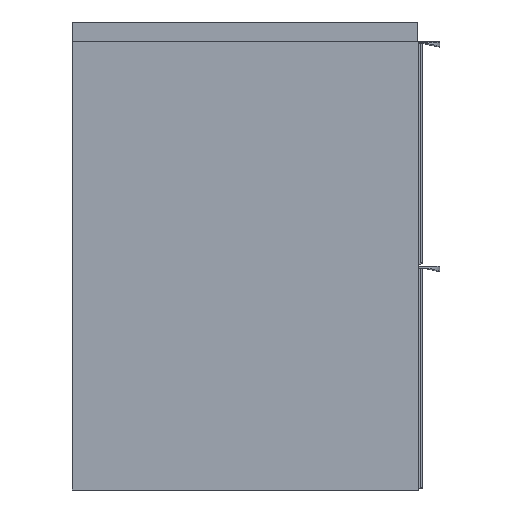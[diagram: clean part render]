
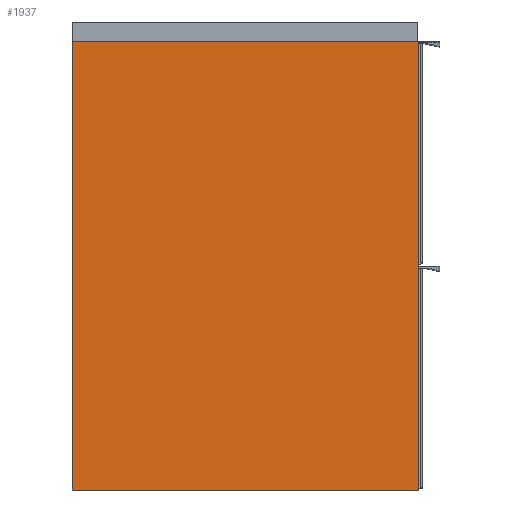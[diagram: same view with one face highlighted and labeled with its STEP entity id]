
A CAD part, left-side view. The second image highlights one B-rep face of the part: STEP entity #1937.
In plain terms, the highlighted planar face has unit normal (-1, 0, 0).
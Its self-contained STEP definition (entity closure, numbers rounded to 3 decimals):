
#1937=ADVANCED_FACE('',(#3280),#23209,.T.);
#3280=FACE_OUTER_BOUND('',#4623,.T.);
#4623=EDGE_LOOP('',(#6163,#6164,#6165,#6166));
#6163=ORIENTED_EDGE('',*,*,#13791,.F.);
#6164=ORIENTED_EDGE('',*,*,#13795,.F.);
#6165=ORIENTED_EDGE('',*,*,#13798,.F.);
#6166=ORIENTED_EDGE('',*,*,#13800,.F.);
#13791=EDGE_CURVE('',#20608,#20609,#17614,.T.);
#13795=EDGE_CURVE('',#20611,#20608,#17618,.T.);
#13798=EDGE_CURVE('',#20613,#20611,#17621,.T.);
#13800=EDGE_CURVE('',#20609,#20613,#17623,.T.);
#17614=B_SPLINE_CURVE_WITH_KNOTS('',1,(#26945,#26946),.UNSPECIFIED.,.F.,
 .F.,(2,2),(-500.,0.),.UNSPECIFIED.);
#17618=B_SPLINE_CURVE_WITH_KNOTS('',1,(#26953,#26954),.UNSPECIFIED.,.F.,
 .F.,(2,2),(-386.,0.),.UNSPECIFIED.);
#17621=B_SPLINE_CURVE_WITH_KNOTS('',1,(#26959,#26960),.UNSPECIFIED.,.F.,
 .F.,(2,2),(-500.,0.),.UNSPECIFIED.);
#17623=B_SPLINE_CURVE_WITH_KNOTS('',1,(#26963,#26964),.UNSPECIFIED.,.F.,
 .F.,(2,2),(-386.,0.),.UNSPECIFIED.);
#20608=VERTEX_POINT('',#26935);
#20609=VERTEX_POINT('',#26936);
#20611=VERTEX_POINT('',#26938);
#20613=VERTEX_POINT('',#26940);
#23209=PLANE('',#24773);
#24773=AXIS2_PLACEMENT_3D('',#26932,#25809,$);
#25809=DIRECTION('',(-1.,0.,0.));
#26932=CARTESIAN_POINT('',(8396.723,-5774.058,-40.828));
#26935=CARTESIAN_POINT('',(8396.723,-5735.338,-90.948));
#26936=CARTESIAN_POINT('',(8396.723,-5735.338,-590.948));
#26938=CARTESIAN_POINT('',(8396.723,-5349.338,-90.948));
#26940=CARTESIAN_POINT('',(8396.723,-5349.338,-590.948));
#26945=CARTESIAN_POINT('',(8396.723,-5735.338,-90.948));
#26946=CARTESIAN_POINT('',(8396.723,-5735.338,-590.948));
#26953=CARTESIAN_POINT('',(8396.723,-5349.338,-90.948));
#26954=CARTESIAN_POINT('',(8396.723,-5735.338,-90.948));
#26959=CARTESIAN_POINT('',(8396.723,-5349.338,-590.948));
#26960=CARTESIAN_POINT('',(8396.723,-5349.338,-90.948));
#26963=CARTESIAN_POINT('',(8396.723,-5735.338,-590.948));
#26964=CARTESIAN_POINT('',(8396.723,-5349.338,-590.948));
